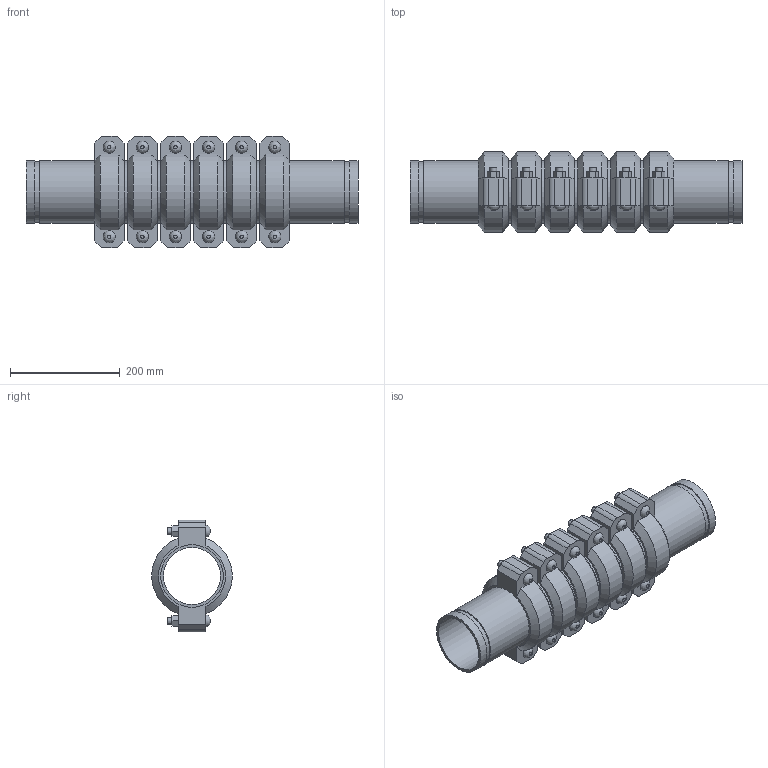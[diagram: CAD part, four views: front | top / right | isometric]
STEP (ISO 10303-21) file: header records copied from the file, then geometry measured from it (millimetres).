
FILE_DESCRIPTION(/* description */ ('VIC SS EXPANSION JOINT 6 COUPLINGS COMPRESSED STYLE 155P (OGS) (POTABLE WATER) ','CAx-IF Rec.Pracs.---Representation and Presentation of Product Manufacturing Information (PMI)---4.0---2014-10-13'),/* implementation_level */ '2;1');
FILE_NAME(/* name */ 'C:\Users\kkamble\AppData\Roaming\Autodesk\ApplicationPlugins\Victaulic.Temp\A518\Victaulic_SS_Expansion Joint_Compressed_6 Couplings_Style 155P (OGS)-Potable Water_6 Coup_Comp_4 (100).stp',/* time_stamp */ '2021-07-16T17:14:42+06:00',/* author */ ('kkamble'),/* organization */ ('Victaulic'),/* preprocessor_version */ 'ST-DEVELOPER v17.2',/* originating_system */ 'Autodesk Inventor 2019',/* authorisation */ '');
FILE_SCHEMA (('AP242_MANAGED_MODEL_BASED_3D_ENGINEERING_MIM_LF { 1 0 10303 442 1 1 4 }'));
Length unit declared in the file: inch
Products named in the file (4): 155-04.0; Nipple-04.0; Nipple-04.0_1; 075-04.0
Assembly tree (13 placements, depth 2):
  155-04.0
    Nipple-04.0  x2
    Nipple-04.0_1  x5
    075-04.0  x6
Bounding box: 606.3 x 147.32 x 203.96 mm (x, y, z)
Volume: 3851126.5 mm3; surface area: 914512.9 mm2
Topology: 13 solids, 25 shells, 402 faces, 972 edges, 684 vertices
Faces by surface type: plane 246, cylinder 120, cone 24, bspline 12
Full cylindrical faces by diameter (mm): 12.7 x24, 14.605 x12, 103.988 x7, 110.084 x14, 114.3 x27
Entity records: 2705 total; most frequent: CARTESIAN_POINT 483, DIRECTION 451, ORIENTED_EDGE 374, EDGE_CURVE 187, AXIS2_PLACEMENT_3D 180, VERTEX_POINT 134, EDGE_LOOP 101, LINE 91
